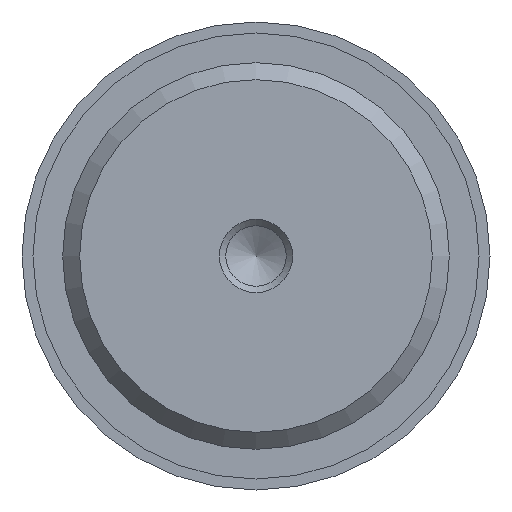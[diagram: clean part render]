
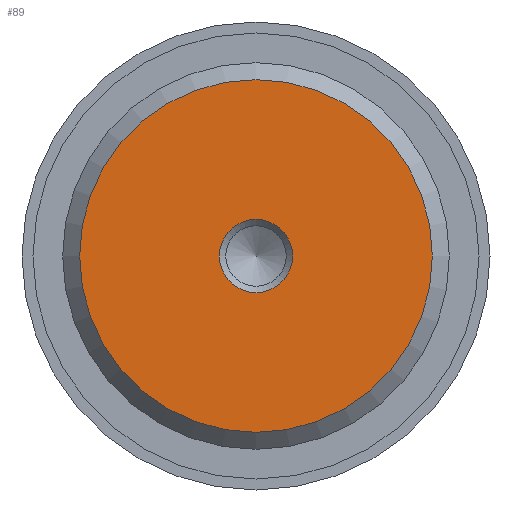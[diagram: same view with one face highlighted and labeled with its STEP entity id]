
A CAD part, front view. The second image highlights one B-rep face of the part: STEP entity #89.
In plain terms, the highlighted planar face has unit normal (0, -1, 0).
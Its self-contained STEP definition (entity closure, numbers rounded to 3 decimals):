
#89 = ADVANCED_FACE( '', ( #173, #174 ), #175, .F. );
#173 = FACE_BOUND( '', #312, .T. );
#174 = FACE_OUTER_BOUND( '', #313, .T. );
#175 = PLANE( '', #314 );
#312 = EDGE_LOOP( '', ( #539 ) );
#313 = EDGE_LOOP( '', ( #540 ) );
#314 = AXIS2_PLACEMENT_3D( '', #541, #542, #543 );
#539 = ORIENTED_EDGE( '', *, *, #948, .F. );
#540 = ORIENTED_EDGE( '', *, *, #952, .T. );
#541 = CARTESIAN_POINT( '', ( 12.059, 0., 0. ) );
#542 = DIRECTION( '', ( 0., 1., 0. ) );
#543 = DIRECTION( '', ( 0., 0., 1. ) );
#948 = EDGE_CURVE( '', #1136, #1136, #1137, .T. );
#952 = EDGE_CURVE( '', #1142, #1142, #1143, .T. );
#1136 = VERTEX_POINT( '', #1468 );
#1137 = CIRCLE( '', #1469, 2.5 );
#1142 = VERTEX_POINT( '', #1474 );
#1143 = CIRCLE( '', #1475, 12.059 );
#1468 = CARTESIAN_POINT( '', ( 2.5, 0., 0. ) );
#1469 = AXIS2_PLACEMENT_3D( '', #1751, #1752, #1753 );
#1474 = CARTESIAN_POINT( '', ( 0., 0., -12.059 ) );
#1475 = AXIS2_PLACEMENT_3D( '', #1760, #1761, #1762 );
#1751 = CARTESIAN_POINT( '', ( 0., 0., 0. ) );
#1752 = DIRECTION( '', ( 0., -1., 0. ) );
#1753 = DIRECTION( '', ( 1., 0., 0. ) );
#1760 = CARTESIAN_POINT( '', ( 0., 0., 0. ) );
#1761 = DIRECTION( '', ( 0., -1., 0. ) );
#1762 = DIRECTION( '', ( 0., 0., -1. ) );
